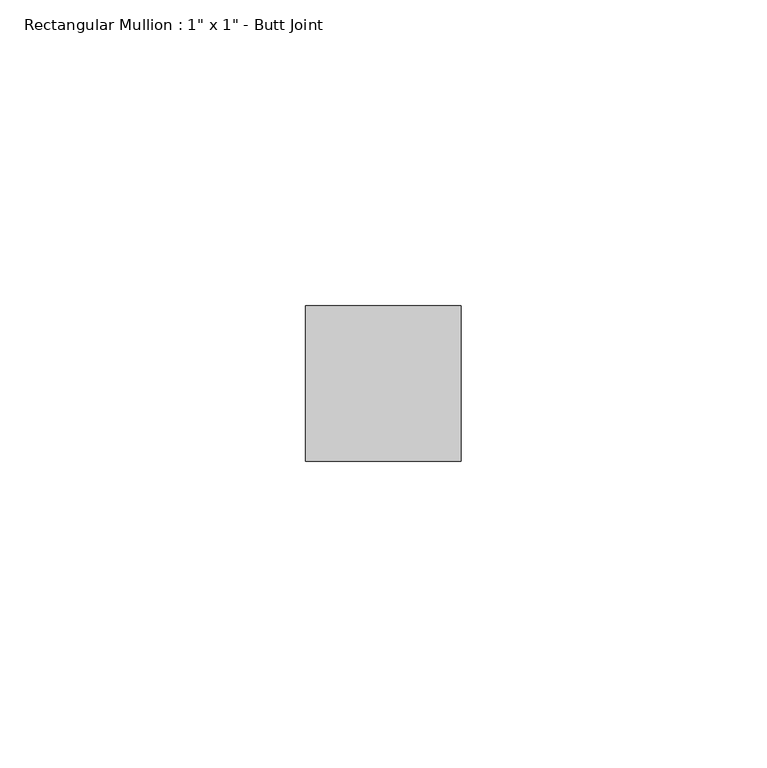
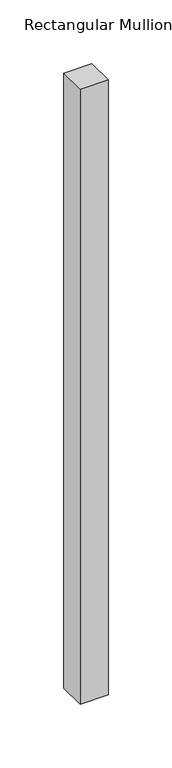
"""IFC4 building model written with IfcOpenShell, lengths in millimetres: member geometry."""

from ifc_helpers import new_model, si_unit, frame, origin, place, context, project, spatial, polyline, outline, extrude, source, transform, mapped, element, save


def member_281dc502(model_context):
    return source(origin(), model_context, "Body", "SweptSolid", [
        extrude(outline(polyline([(12.7, 12.7), (12.7, -12.7), (-12.7, -12.7), (-12.7, 12.7), (12.7, 12.7)])), frame((0.0, 0.0, -587.8988374), z_axis=(0.0, 0.0, 1.0), x_axis=(1.0, 0.0, 0.0)), (0.0, 0.0, 1.0), 587.8988374),
    ])


if __name__ == "__main__":
    model = new_model("IFC4")
    model_context = context("Model", 3, world=origin())
    ifc_project = project(units=[si_unit("LENGTHUNIT", "METRE", prefix="MILLI")], contexts=[model_context])
    site = spatial("IfcSite", under=ifc_project)
    building = spatial("IfcBuilding", under=site)
    placement = place(None, origin())
    member_shape = member_281dc502(model_context)
    element("IfcMember", 1, ObjectType="Rectangular Mullion : 1\" x 1\" - Butt Joint", at=placement, inside=building, context=model_context, shape_type="MappedRepresentation", body=[
        mapped(member_shape, transform((0.0, 0.0, 0.0), x_axis=(1.0, 0.0, 0.0), y_axis=(0.0, 1.0, 0.0), z_axis=(0.0, 0.0, 1.0))),
    ])
    save(model, "model.ifc")
